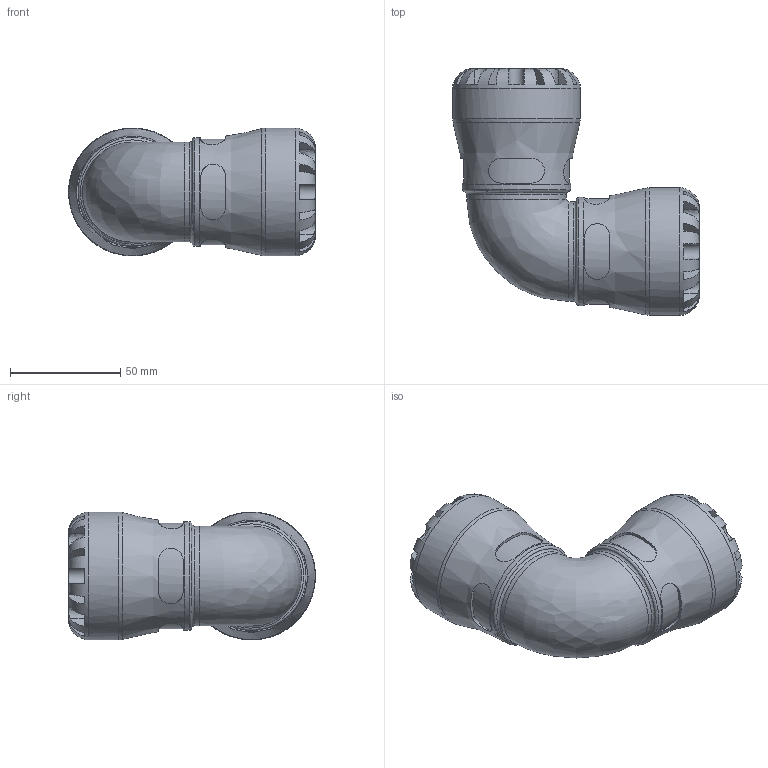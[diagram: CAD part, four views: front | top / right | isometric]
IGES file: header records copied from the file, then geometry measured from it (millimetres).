
Global section: file name: 150500032; native system: Autodesk Inventor 2019; preprocessor: unknown; author: KIM; date: 20231017.193455; units: millimetre
Bounding box: 112 x 112 x 58 mm (x, y, z)
Volume: 204759.5 mm3; surface area: 46945.8 mm2
Topology: 1 solids, 1 shells, 196 faces, 521 edges, 335 vertices
Faces by surface type: bspline 196
